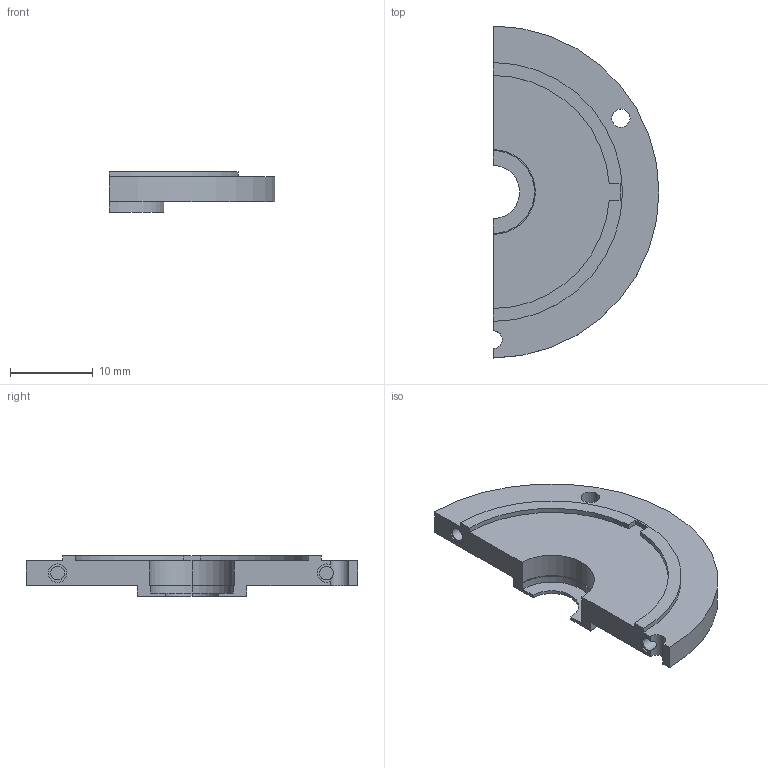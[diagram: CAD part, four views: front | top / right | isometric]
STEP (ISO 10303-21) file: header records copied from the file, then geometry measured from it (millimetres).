
FILE_DESCRIPTION(('Open CASCADE Model'),'2;1');
FILE_NAME('Open CASCADE Shape Model','2026-09-24T19:52:58',('Author'),( 'Open CASCADE'),'Open CASCADE STEP processor 7.8','Open CASCADE 7.8' ,'Unknown');
FILE_SCHEMA(('AUTOMOTIVE_DESIGN { 1 0 10303 214 1 1 1 1 }'));
Length unit declared in the file: millimetre
Products named in the file (1): Open CASCADE STEP translator 7.8 23
Bounding box: 20 x 40 x 4.9 mm (x, y, z)
Volume: 1804.1 mm3; surface area: 1745.2 mm2
Topology: 1 solids, 1 shells, 37 faces, 99 edges, 66 vertices
Faces by surface type: cylinder 20, plane 17
Full cylindrical faces by diameter (mm): 1.66 x2, 2.2 x2
Entity records: 3093 total; most frequent: CARTESIAN_POINT 1202, DIRECTION 323, ORIENTED_EDGE 198, PCURVE 198, DEFINITIONAL_REPRESENTATION 198, LINE 125, VECTOR 125, EDGE_CURVE 99
